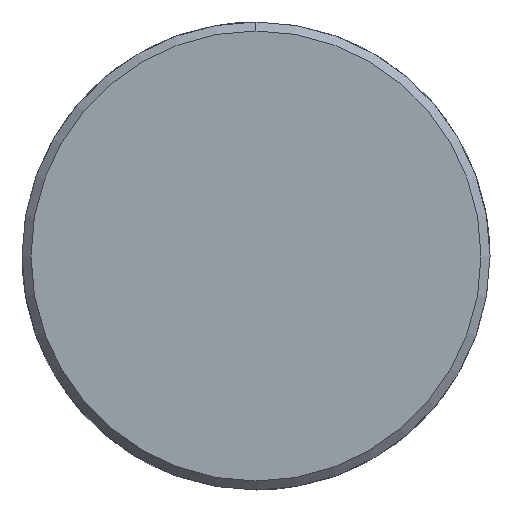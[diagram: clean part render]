
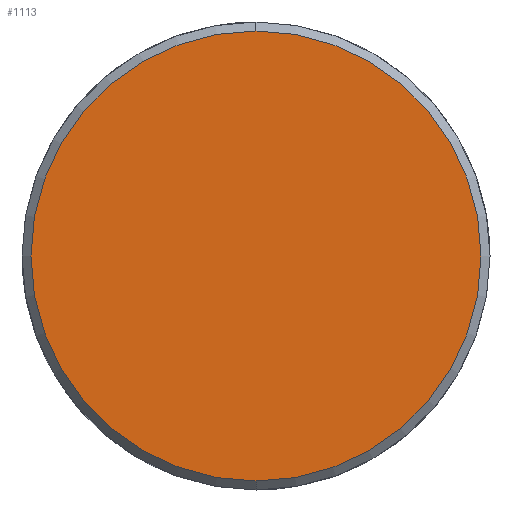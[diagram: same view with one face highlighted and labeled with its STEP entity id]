
A CAD part, left-side view. The second image highlights one B-rep face of the part: STEP entity #1113.
In plain terms, the highlighted planar face has unit normal (-1, 0, 0).
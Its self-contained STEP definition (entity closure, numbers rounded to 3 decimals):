
#1045=CARTESIAN_POINT('Vertex',(-8.,0.,-25.)) ;
#1048=CARTESIAN_POINT('Axis2P3D Location',(-8.,0.,0.)) ;
#1052=CARTESIAN_POINT('Vertex',(-8.,25.,0.)) ;
#1055=CARTESIAN_POINT('Axis2P3D Location',(-8.,0.,0.)) ;
#1059=CARTESIAN_POINT('Vertex',(-8.,0.,25.)) ;
#1081=CARTESIAN_POINT('Axis2P3D Location',(-8.,0.,0.)) ;
#1085=CARTESIAN_POINT('Vertex',(-8.,-25.,0.)) ;
#1088=CARTESIAN_POINT('Axis2P3D Location',(-8.,0.,0.)) ;
#1102=CARTESIAN_POINT('Axis2P3D Location',(-8.,0.,0.)) ;
#1049=DIRECTION('Axis2P3D Direction',(1.,0.,-0.)) ;
#1056=DIRECTION('Axis2P3D Direction',(1.,0.,-0.)) ;
#1082=DIRECTION('Axis2P3D Direction',(1.,0.,-0.)) ;
#1089=DIRECTION('Axis2P3D Direction',(1.,0.,-0.)) ;
#1103=DIRECTION('Axis2P3D Direction',(1.,0.,-0.)) ;
#1104=DIRECTION('Axis2P3D XDirection',(-0.,0.,-1.)) ;
#1050=AXIS2_PLACEMENT_3D('Circle Axis2P3D',#1048,#1049,$) ;
#1057=AXIS2_PLACEMENT_3D('Circle Axis2P3D',#1055,#1056,$) ;
#1083=AXIS2_PLACEMENT_3D('Circle Axis2P3D',#1081,#1082,$) ;
#1090=AXIS2_PLACEMENT_3D('Circle Axis2P3D',#1088,#1089,$) ;
#1105=AXIS2_PLACEMENT_3D('Plane Axis2P3D',#1102,#1103,#1104) ;
#1108=ORIENTED_EDGE('',*,*,#1054,.F.) ;
#1109=ORIENTED_EDGE('',*,*,#1092,.F.) ;
#1110=ORIENTED_EDGE('',*,*,#1087,.F.) ;
#1111=ORIENTED_EDGE('',*,*,#1061,.F.) ;
#1113=ADVANCED_FACE('351-40X116X180',(#1112),#1106,.F.) ;
#1051=CIRCLE('generated circle',#1050,25.) ;
#1058=CIRCLE('generated circle',#1057,25.) ;
#1084=CIRCLE('generated circle',#1083,25.) ;
#1091=CIRCLE('generated circle',#1090,25.) ;
#1054=EDGE_CURVE('',#1046,#1053,#1051,.T.) ;
#1061=EDGE_CURVE('',#1053,#1060,#1058,.T.) ;
#1087=EDGE_CURVE('',#1060,#1086,#1084,.T.) ;
#1092=EDGE_CURVE('',#1086,#1046,#1091,.T.) ;
#1107=EDGE_LOOP('',(#1108,#1109,#1110,#1111)) ;
#1112=FACE_OUTER_BOUND('',#1107,.T.) ;
#1106=PLANE('Plane',#1105) ;
#1046=VERTEX_POINT('',#1045) ;
#1053=VERTEX_POINT('',#1052) ;
#1060=VERTEX_POINT('',#1059) ;
#1086=VERTEX_POINT('',#1085) ;
